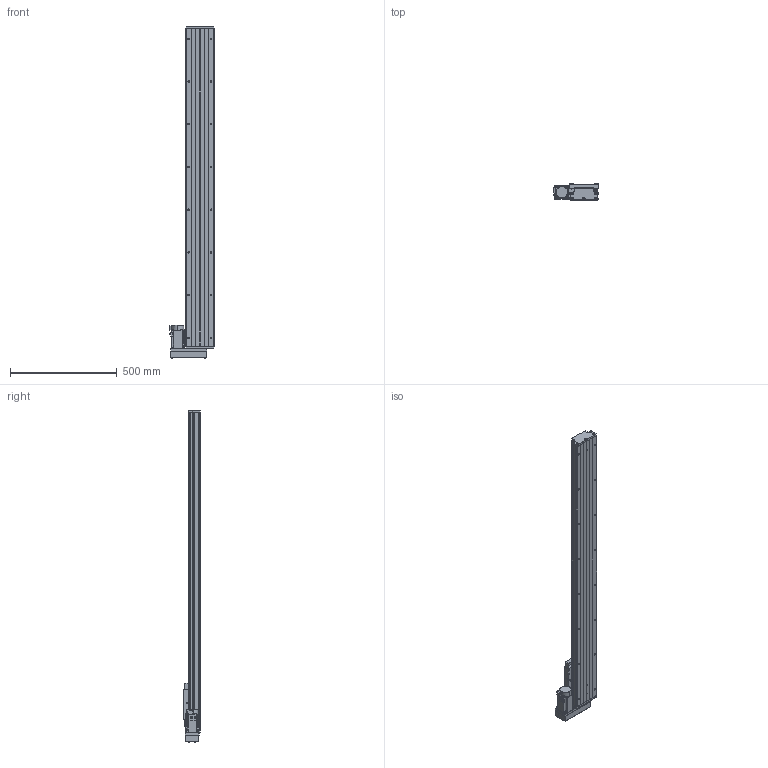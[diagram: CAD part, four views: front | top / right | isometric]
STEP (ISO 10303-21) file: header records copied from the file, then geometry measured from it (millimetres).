
FILE_DESCRIPTION (( 'STEP AP203' ), '1' );
FILE_NAME ('GTH14-1250-BL-M40-C4.step', '2023-06-30T08:38:39', ( '微软用户' ), ( '微软中国' ), 'SwSTEP 2.0', 'SolidWorks 2020', '' );
FILE_SCHEMA (( 'CONFIG_CONTROL_DESIGN' ));
Length unit declared in the file: millimetre
Products named in the file (19): EE_SX911P_R; HG-KN43J-S100; GTH14-002_GTH14-002; CTHA60-016; GBT 70.2-M4¡Á35_M4¡Á35; GTH14-004; GBT 70.1-M3℅5; GTH14-015-2_CTHA86-015-2; GTH14-005; GBT77-2000 M3×3; GTH14-033; GB1155-6X6; GTH14-031; GTH14-1250-BL-M40-C4; GBT70.1 M5℅16; GBT 70.2-M3¡Á5_M3¡Á6; CTHA60-017; す晦芛蹟隊 M3℅5; GTH14-001_1250
Assembly tree (58 placements, depth 2):
  GTH14-1250-BL-M40-C4
    GTH14-001_1250
    GTH14-002_GTH14-002
    GTH14-004
    GTH14-005
    GB1155-6X6  x2
    GBT70.1 M5℅16  x10
    CTHA60-017  x3
    EE_SX911P_R  x3
    CTHA60-016  x2
    GBT 70.1-M3℅5  x6
    GBT77-2000 M3×3  x6
    GTH14-031
    GBT 70.2-M3¡Á5_M3¡Á6  x8
    す晦芛蹟隊 M3℅5  x6
    HG-KN43J-S100
    GBT 70.2-M4¡Á35_M4¡Á35  x4
    GTH14-015-2_CTHA86-015-2
    GTH14-033
Bounding box: 209.3 x 78 x 1554.2 mm (x, y, z)
Volume: 8165815.9 mm3; surface area: 1286299.4 mm2
Topology: 61 solids, 61 shells, 2483 faces, 5905 edges, 3642 vertices
Faces by surface type: plane 1313, cylinder 680, cone 314, torus 124, sphere 32, bspline 20
Entity records: 45082 total; most frequent: CARTESIAN_POINT 10007, DIRECTION 6669, ORIENTED_EDGE 6500, EDGE_CURVE 3250, AXIS2_PLACEMENT_3D 2296, VECTOR 2077, LINE 2077, VERTEX_POINT 2060
